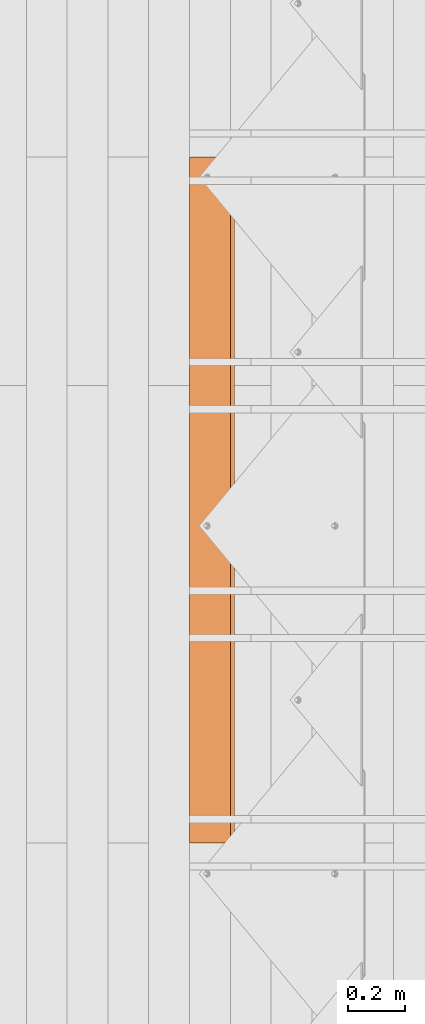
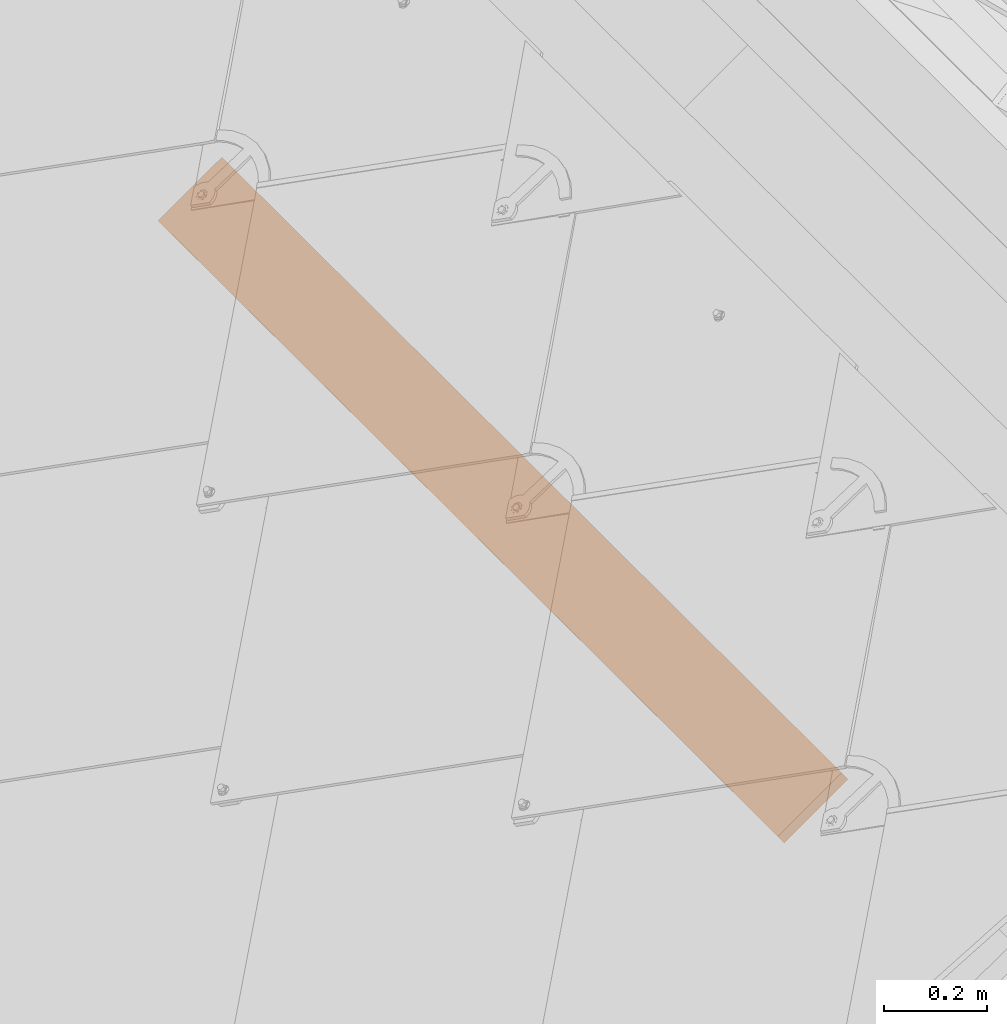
# One storey, part 38 of 133: 1 proxy, 1 element without a shape of its own.
"""IFC2X3 building model written with IfcOpenShell, lengths in millimetres."""

from ifc_helpers import new_model, entity, si_unit, converted_unit, derived_unit, direction, frame, frame_2d, origin, place, context, subcontext, project, spatial, rectangle, extrude, source, transform, mapped, material, type_object, type_shapes, element, aggregate, save


model = new_model("IFC2X3")

# Units and contexts
model_context = context("Model", 3, precision=0.01, world=origin(), true_north=direction((6.12303176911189e-17, 1.0)))
body_context = subcontext(model_context, "Body", "Model", "MODEL_VIEW")
ifc_project = project(units=[si_unit("LENGTHUNIT", "METRE", prefix="MILLI"), si_unit("AREAUNIT", "SQUARE_METRE"), si_unit("VOLUMEUNIT", "CUBIC_METRE"), converted_unit("PLANEANGLEUNIT", "DEGREE", entity("IfcRatioMeasure", 0.0174532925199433), si_unit("PLANEANGLEUNIT", "RADIAN"), dimensions=[0, 0, 0, 0, 0, 0, 0]), si_unit("MASSUNIT", "GRAM", prefix="KILO"), derived_unit("MASSDENSITYUNIT", [(si_unit("MASSUNIT", "GRAM", prefix="KILO"), 1), (si_unit("LENGTHUNIT", "METRE"), -3)]), si_unit("TIMEUNIT", "SECOND"), si_unit("FREQUENCYUNIT", "HERTZ"), si_unit("THERMODYNAMICTEMPERATUREUNIT", "DEGREE_CELSIUS"), derived_unit("THERMALTRANSMITTANCEUNIT", [(si_unit("MASSUNIT", "GRAM", prefix="KILO"), 1), (si_unit("THERMODYNAMICTEMPERATUREUNIT", "KELVIN"), -1), (si_unit("TIMEUNIT", "SECOND"), -3)]), derived_unit("VOLUMETRICFLOWRATEUNIT", [(si_unit("LENGTHUNIT", "METRE"), 3), (si_unit("TIMEUNIT", "SECOND"), -1)]), si_unit("ELECTRICCURRENTUNIT", "AMPERE"), si_unit("ELECTRICVOLTAGEUNIT", "VOLT"), si_unit("POWERUNIT", "WATT"), si_unit("FORCEUNIT", "NEWTON", prefix="KILO"), si_unit("ILLUMINANCEUNIT", "LUX"), si_unit("LUMINOUSFLUXUNIT", "LUMEN"), si_unit("LUMINOUSINTENSITYUNIT", "CANDELA"), derived_unit("USERDEFINED", [(si_unit("MASSUNIT", "GRAM", prefix="KILO"), -1), (si_unit("LENGTHUNIT", "METRE"), -2), (si_unit("TIMEUNIT", "SECOND"), 3), (si_unit("LUMINOUSFLUXUNIT", "LUMEN"), 1)]), derived_unit("LINEARVELOCITYUNIT", [(si_unit("LENGTHUNIT", "METRE"), 1), (si_unit("TIMEUNIT", "SECOND"), -1)]), si_unit("PRESSUREUNIT", "PASCAL"), derived_unit("USERDEFINED", [(si_unit("LENGTHUNIT", "METRE"), -2), (si_unit("MASSUNIT", "GRAM", prefix="KILO"), 1), (si_unit("TIMEUNIT", "SECOND"), -2)])], contexts=[model_context])

# Site, building, storey
site_placement = place(None, origin())
site = spatial("IfcSite", under=ifc_project, at=site_placement, Name="Default", CompositionType="ELEMENT")
building_placement = place(site_placement, origin())
building = spatial("IfcBuilding", under=site, at=building_placement, CompositionType="ELEMENT")
storey_placement = place(building_placement, origin())
storey = spatial("IfcBuildingStorey", under=building, at=storey_placement, Name="Level 1", CompositionType="ELEMENT", Elevation=0.0)

# Assembly, proxy
assembly_placement = place(storey_placement, origin())
assembly = element("IfcElementAssembly", 1, at=assembly_placement, inside=storey, Name="Structural Framing Assembly:Roof Construction Assembly", ObjectType="Structural Framing Assembly:Roof Construction Assembly", AssemblyPlace="NOTDEFINED", PredefinedType="USERDEFINED")
ifc_material = material(Name="Wood - Generic - Wood For Showcase")
building_element_proxy_type = type_object("IfcBuildingElementProxyType", Name="Structural Framing 15", PredefinedType="NOTDEFINED", material=ifc_material)
shared_shape = source(origin(), body_context, "Body", "SweptSolid", [
    extrude(rectangle(XDim=24.9999999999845, YDim=174.344679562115, at=frame_2d((-1.77635683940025e-13, -4.54747350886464e-13), x_axis=(0.0, 1.0))), frame((1128.20180147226, 1525.55080214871, 2760.23940055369), z_axis=(0.0, 1.0, 0.0), x_axis=(-0.819152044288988, 0.0, -0.573576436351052)), (0.0, 0.0, 1.0), 2400.0),
])
type_shapes(building_element_proxy_type, [shared_shape])
proxy_placement = place(assembly_placement, frame((-856.888804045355, -4870.0, -600.0)))
proxy = element("IfcBuildingElementProxy", 2, at=proxy_placement, type_object=building_element_proxy_type, material=ifc_material, Name="Structural Framing 47:Structural Framing 15", ObjectType="Structural Framing 47:Structural Framing 15", context=body_context, shape_type="MappedRepresentation", body=[
    mapped(shared_shape, transform((0.0, 0.0, 0.0), scale=1.0)),
])
aggregate(assembly, [proxy])

save(model, "model.ifc")
